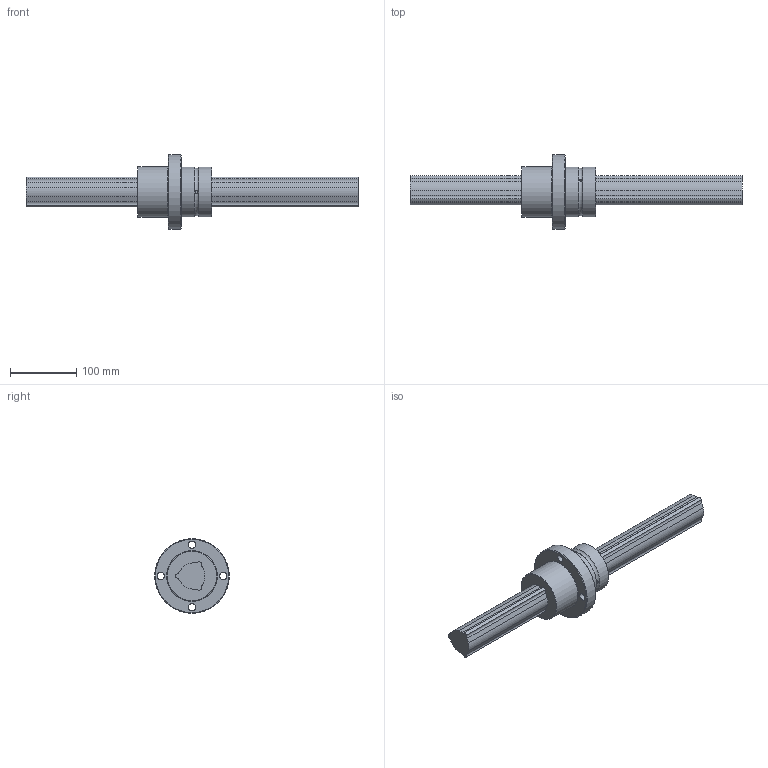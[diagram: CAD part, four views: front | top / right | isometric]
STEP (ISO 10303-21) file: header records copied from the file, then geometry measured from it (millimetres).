
FILE_DESCRIPTION(/* description */ ('STEP AP214'),/* implementation_level */ '2;1');
FILE_NAME(/* name */ 'LBR50+500L(1121680)',/* time_stamp */ '2024-09-04T13:08:40+02:00',/* author */ ('License CC BY-ND 4.0'),/* organization */ ('CADENAS'),/* preprocessor_version */ 'ST-DEVELOPER v19.3',/* originating_system */ 'PARTsolutions',/* authorisation */ ' ');
FILE_SCHEMA (('AUTOMOTIVE_DESIGN {1 0 10303 214 3 1 1}'));
Length unit declared in the file: millimetre
Products named in the file (3): LBR50+500L(1121680); LBR501500 Spline Shaft; LBR50 Nut
Assembly tree (2 placements, depth 2):
  LBR50+500L(1121680)
    LBR501500 Spline Shaft
    LBR50 Nut
Bounding box: 500 x 112.4 x 112.4 mm (x, y, z)
Volume: 1115209.2 mm3; surface area: 138579.5 mm2
Topology: 2 solids, 2 shells, 63 faces, 158 edges, 104 vertices
Faces by surface type: cylinder 35, plane 21, torus 5, cone 2
Full cylindrical faces by diameter (mm): 4 x3, 11 x4, 75 x2, 75.4 x1, 112.4 x1
Entity records: 1918 total; most frequent: CARTESIAN_POINT 344, DIRECTION 338, ORIENTED_EDGE 272, AXIS2_PLACEMENT_3D 139, EDGE_CURVE 136, VERTEX_POINT 100, EDGE_LOOP 96, FACE_BOUND 96
